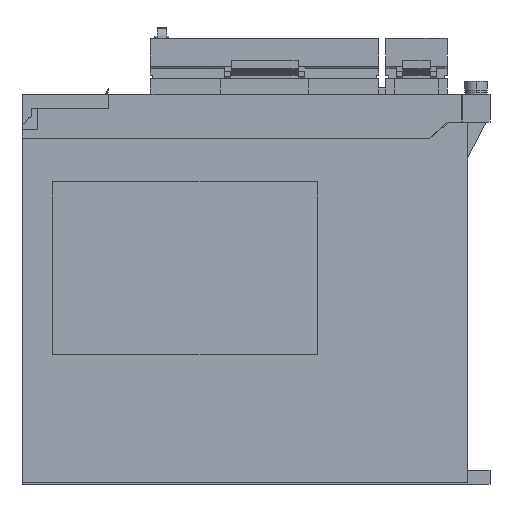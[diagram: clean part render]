
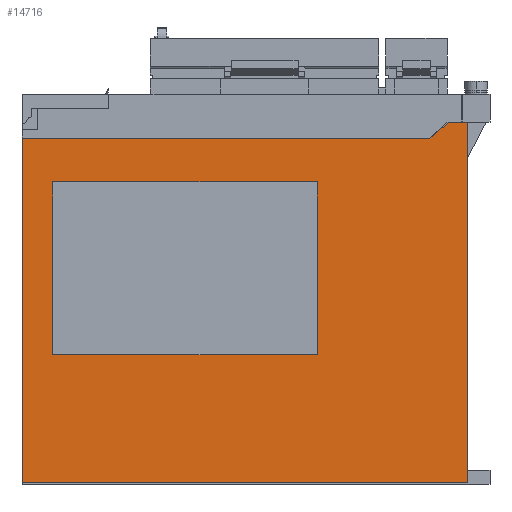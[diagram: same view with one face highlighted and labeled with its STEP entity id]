
A CAD part, left-side view. The second image highlights one B-rep face of the part: STEP entity #14716.
In plain terms, the highlighted planar face has unit normal (-1, 0, 0).
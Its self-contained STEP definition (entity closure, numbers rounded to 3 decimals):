
#12085 = VERTEX_POINT ( 'NONE', #34513 ) ;
#12087 = EDGE_CURVE ( 'NONE', #12085, #12088, #34512, .T. ) ;
#12088 = VERTEX_POINT ( 'NONE', #34508 ) ;
#12477 = VERTEX_POINT ( 'NONE', #35185 ) ;
#12545 = VERTEX_POINT ( 'NONE', #35316 ) ;
#12547 = EDGE_CURVE ( 'NONE', #12477, #12545, #35315, .T. ) ;
#13939 = ORIENTED_EDGE ( 'NONE', *, *, #14699, .F. ) ;
#14640 = VERTEX_POINT ( 'NONE', #38921 ) ;
#14699 = EDGE_CURVE ( 'NONE', #14721, #14640, #39018, .T. ) ;
#14700 = EDGE_LOOP ( 'NONE', ( #14701, #14702, #14705, #14708, #14710, #14711 ) ) ;
#14701 = ORIENTED_EDGE ( 'NONE', *, *, #12087, .F. ) ;
#14702 = ORIENTED_EDGE ( 'NONE', *, *, #14703, .F. ) ;
#14703 = EDGE_CURVE ( 'NONE', #14704, #12085, #39014, .T. ) ;
#14704 = VERTEX_POINT ( 'NONE', #39010 ) ;
#14705 = ORIENTED_EDGE ( 'NONE', *, *, #14706, .F. ) ;
#14706 = EDGE_CURVE ( 'NONE', #14707, #14704, #39009, .T. ) ;
#14707 = VERTEX_POINT ( 'NONE', #39005 ) ;
#14708 = ORIENTED_EDGE ( 'NONE', *, *, #14709, .F. ) ;
#14709 = EDGE_CURVE ( 'NONE', #12477, #14707, #39004, .T. ) ;
#14710 = ORIENTED_EDGE ( 'NONE', *, *, #12547, .T. ) ;
#14711 = ORIENTED_EDGE ( 'NONE', *, *, #14766, .T. ) ;
#14716 = ADVANCED_FACE ( 'NONE', ( #38996, #38995 ), #38994, .F. ) ;
#14717 = EDGE_LOOP ( 'NONE', ( #14718, #14722, #14725, #13939 ) ) ;
#14718 = ORIENTED_EDGE ( 'NONE', *, *, #14719, .F. ) ;
#14719 = EDGE_CURVE ( 'NONE', #14720, #14721, #39053, .T. ) ;
#14720 = VERTEX_POINT ( 'NONE', #39049 ) ;
#14721 = VERTEX_POINT ( 'NONE', #39048 ) ;
#14722 = ORIENTED_EDGE ( 'NONE', *, *, #14723, .F. ) ;
#14723 = EDGE_CURVE ( 'NONE', #14724, #14720, #39047, .T. ) ;
#14724 = VERTEX_POINT ( 'NONE', #39043 ) ;
#14725 = ORIENTED_EDGE ( 'NONE', *, *, #14726, .F. ) ;
#14726 = EDGE_CURVE ( 'NONE', #14640, #14724, #39042, .T. ) ;
#14766 = EDGE_CURVE ( 'NONE', #12545, #12088, #39108, .T. ) ;
#34508 = CARTESIAN_POINT ( 'NONE',  ( -35., -155., 0.5 ) ) ;
#34509 = DIRECTION ( 'NONE',  ( 0., 0., -1. ) ) ;
#34510 = VECTOR ( 'NONE', #34509, 1000. ) ;
#34511 = CARTESIAN_POINT ( 'NONE',  ( -35., -155., 288.924 ) ) ;
#34512 = LINE ( 'NONE', #34511, #34510 ) ;
#34513 = CARTESIAN_POINT ( 'NONE',  ( -35., -155., 129.8 ) ) ;
#35185 = CARTESIAN_POINT ( 'NONE',  ( -35., 5., 124. ) ) ;
#35312 = DIRECTION ( 'NONE',  ( 0., 0., -1. ) ) ;
#35313 = VECTOR ( 'NONE', #35312, 1000. ) ;
#35314 = CARTESIAN_POINT ( 'NONE',  ( -35., 5., 288.924 ) ) ;
#35315 = LINE ( 'NONE', #35314, #35313 ) ;
#35316 = CARTESIAN_POINT ( 'NONE',  ( -35., 5., 0.5 ) ) ;
#38921 = CARTESIAN_POINT ( 'NONE',  ( -35., -6., 108.5 ) ) ;
#38992 = CARTESIAN_POINT ( 'NONE',  ( -35., 5., 288.924 ) ) ;
#38993 = AXIS2_PLACEMENT_3D ( 'NONE', #38992, #39055, #39054 ) ;
#38994 = PLANE ( 'NONE',  #38993 ) ;
#38995 = FACE_OUTER_BOUND ( 'NONE', #14700, .T. ) ;
#38996 = FACE_BOUND ( 'NONE', #14717, .T. ) ;
#39001 = DIRECTION ( 'NONE',  ( 0., -1., 0. ) ) ;
#39002 = VECTOR ( 'NONE', #39001, 1000. ) ;
#39003 = CARTESIAN_POINT ( 'NONE',  ( -35., 13.365, 124. ) ) ;
#39004 = LINE ( 'NONE', #39003, #39002 ) ;
#39005 = CARTESIAN_POINT ( 'NONE',  ( -35., -141.328, 124. ) ) ;
#39006 = DIRECTION ( 'NONE',  ( 0., -0.755, 0.656 ) ) ;
#39007 = VECTOR ( 'NONE', #39006, 1000. ) ;
#39008 = CARTESIAN_POINT ( 'NONE',  ( -35., -141.328, 124. ) ) ;
#39009 = LINE ( 'NONE', #39008, #39007 ) ;
#39010 = CARTESIAN_POINT ( 'NONE',  ( -35., -148., 129.8 ) ) ;
#39011 = DIRECTION ( 'NONE',  ( 0., -1., 0. ) ) ;
#39012 = VECTOR ( 'NONE', #39011, 1000. ) ;
#39013 = CARTESIAN_POINT ( 'NONE',  ( -35., -153., 129.8 ) ) ;
#39014 = LINE ( 'NONE', #39013, #39012 ) ;
#39015 = DIRECTION ( 'NONE',  ( 0., 1., 0. ) ) ;
#39016 = VECTOR ( 'NONE', #39015, 1000. ) ;
#39017 = CARTESIAN_POINT ( 'NONE',  ( -35., -6., 108.5 ) ) ;
#39018 = LINE ( 'NONE', #39017, #39016 ) ;
#39039 = DIRECTION ( 'NONE',  ( 0., 0., -1. ) ) ;
#39040 = VECTOR ( 'NONE', #39039, 1000. ) ;
#39041 = CARTESIAN_POINT ( 'NONE',  ( -35., -6., 46.5 ) ) ;
#39042 = LINE ( 'NONE', #39041, #39040 ) ;
#39043 = CARTESIAN_POINT ( 'NONE',  ( -35., -6., 46.5 ) ) ;
#39044 = DIRECTION ( 'NONE',  ( 0., -1., 0. ) ) ;
#39045 = VECTOR ( 'NONE', #39044, 1000. ) ;
#39046 = CARTESIAN_POINT ( 'NONE',  ( -35., -6., 46.5 ) ) ;
#39047 = LINE ( 'NONE', #39046, #39045 ) ;
#39048 = CARTESIAN_POINT ( 'NONE',  ( -35., -101., 108.5 ) ) ;
#39049 = CARTESIAN_POINT ( 'NONE',  ( -35., -101., 46.5 ) ) ;
#39050 = DIRECTION ( 'NONE',  ( 0., 0., 1. ) ) ;
#39051 = VECTOR ( 'NONE', #39050, 1000. ) ;
#39052 = CARTESIAN_POINT ( 'NONE',  ( -35., -101., 46.5 ) ) ;
#39053 = LINE ( 'NONE', #39052, #39051 ) ;
#39054 = DIRECTION ( 'NONE',  ( 0., 0., -1. ) ) ;
#39055 = DIRECTION ( 'NONE',  ( 1., 0., 0. ) ) ;
#39105 = DIRECTION ( 'NONE',  ( 0., -1., 0. ) ) ;
#39106 = VECTOR ( 'NONE', #39105, 1000. ) ;
#39107 = CARTESIAN_POINT ( 'NONE',  ( -35., 5., 0.5 ) ) ;
#39108 = LINE ( 'NONE', #39107, #39106 ) ;
